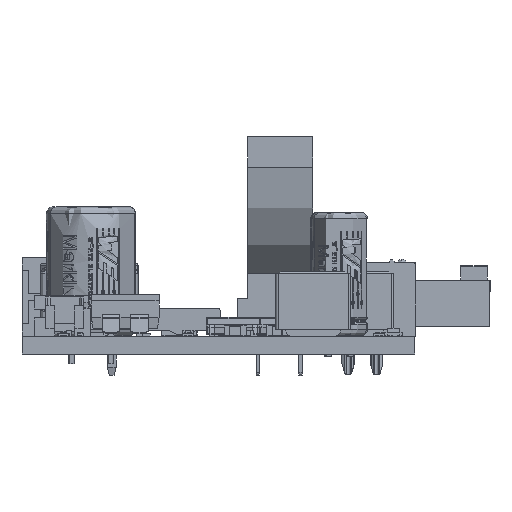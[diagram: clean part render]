
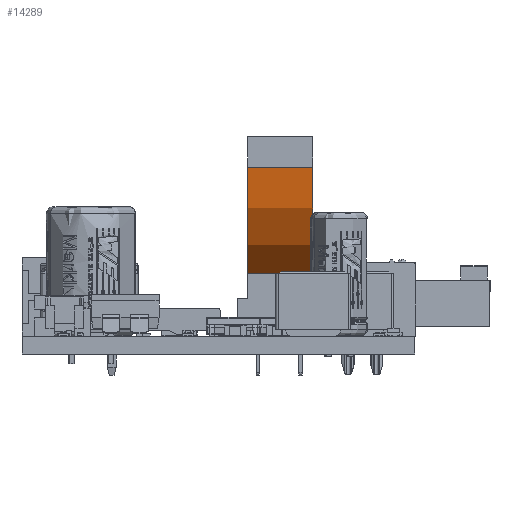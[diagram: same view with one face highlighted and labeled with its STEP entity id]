
A CAD part, front view. The second image highlights one B-rep face of the part: STEP entity #14289.
In plain terms, the highlighted cylindrical face has radius 11.45 mm (diameter 22.9 mm), a partial arc.
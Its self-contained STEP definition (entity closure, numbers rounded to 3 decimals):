
#14289=ADVANCED_FACE('0:36377',(#27683),#27684,.T.);
#27683=FACE_OUTER_BOUND('',#58817,.T.);
#27684=CYLINDRICAL_SURFACE('',#58818,11.45);
#58817=EDGE_LOOP('',(#90347,#90348,#90349,#90350));
#58818=AXIS2_PLACEMENT_3D('',#90351,#90352,#90353);
#90347=ORIENTED_EDGE('',*,*,#110519,.T.);
#90348=ORIENTED_EDGE('',*,*,#110589,.F.);
#90349=ORIENTED_EDGE('',*,*,#110591,.F.);
#90350=ORIENTED_EDGE('',*,*,#110564,.T.);
#90351=CARTESIAN_POINT('',(0.,-0.02,0.));
#90352=DIRECTION('',(0.,-1.0,0.));
#90353=DIRECTION('',(0.,0.,1.0));
#110519=EDGE_CURVE('0:36497',#130297,#130295,#130298,.T.);
#110564=EDGE_CURVE('0:36620',#130380,#130297,#130381,.T.);
#110589=EDGE_CURVE('0:36686',#130420,#130295,#130422,.T.);
#110591=EDGE_CURVE('0:36689',#130380,#130420,#130424,.T.);
#130295=VERTEX_POINT('NONE',#165948);
#130297=VERTEX_POINT('NONE',#165951);
#130298=CIRCLE('',#165952,11.45);
#130380=VERTEX_POINT('NONE',#166067);
#130381=LINE('',#166068,#166069);
#130420=VERTEX_POINT('NONE',#166128);
#130422=LINE('',#166131,#166132);
#130424=CIRCLE('',#166134,11.45);
#165948=CARTESIAN_POINT('',(6.5,5.78,9.426));
#165951=CARTESIAN_POINT('',(11.45,5.78,0.));
#165952=AXIS2_PLACEMENT_3D('',#185046,#185047,#185048);
#166067=CARTESIAN_POINT('',(11.45,-0.02,0.));
#166068=CARTESIAN_POINT('',(11.45,-0.02,0.));
#166069=VECTOR('',#185103,0.001);
#166128=CARTESIAN_POINT('',(6.5,-0.02,9.426));
#166131=CARTESIAN_POINT('',(6.5,-0.02,9.426));
#166132=VECTOR('',#185125,0.001);
#166134=AXIS2_PLACEMENT_3D('',#185126,#185127,#185128);
#185046=CARTESIAN_POINT('',(0.,5.78,0.));
#185047=DIRECTION('',(0.,-1.0,0.));
#185048=DIRECTION('',(0.,0.,1.0));
#185103=DIRECTION('',(0.,1.0,0.0));
#185125=DIRECTION('',(0.,1.0,0.0));
#185126=CARTESIAN_POINT('',(0.,-0.02,0.));
#185127=DIRECTION('',(0.,-1.0,0.));
#185128=DIRECTION('',(0.,0.,1.0));
